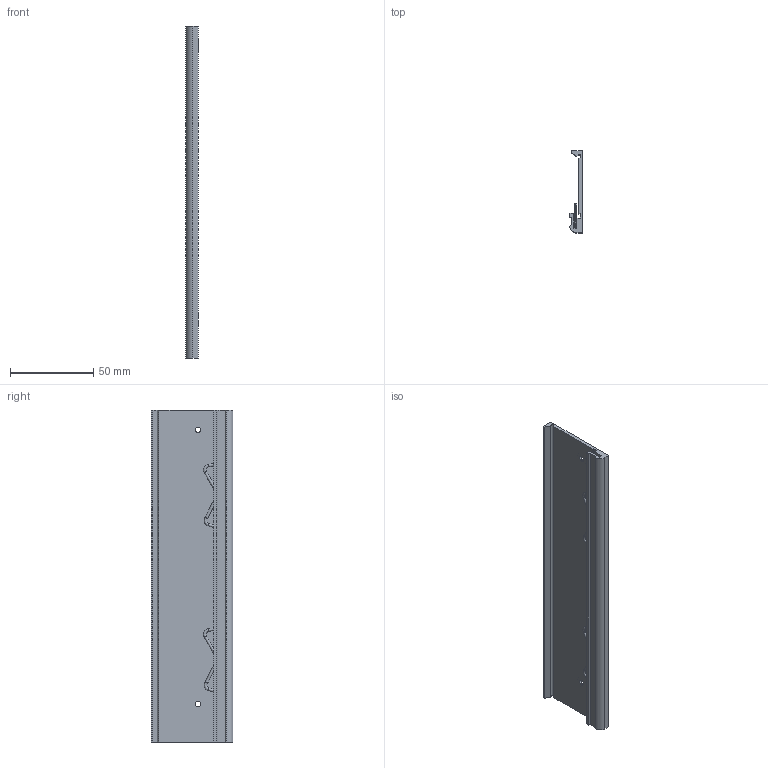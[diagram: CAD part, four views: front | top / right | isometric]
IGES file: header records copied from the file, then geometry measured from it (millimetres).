
Start section:  PTC IGES file: din-rail-8slot.igs
Global section: file name: din-rail-8slot.igs; native system: Pro/ENGINEER by Parametric Technology Corporation; preprocessor: 2006080; author: chrisj; organization: Unknown; date: 070126.142318; units: inch
Bounding box: 7.49 x 49.33 x 199.9 mm (x, y, z)
Surface area: 29340.4 mm2 (no closed solid volume)
Topology: 0 solids, 0 shells, 88 faces, 416 edges, 416 vertices
Faces by surface type: revolution 59, bspline 29
